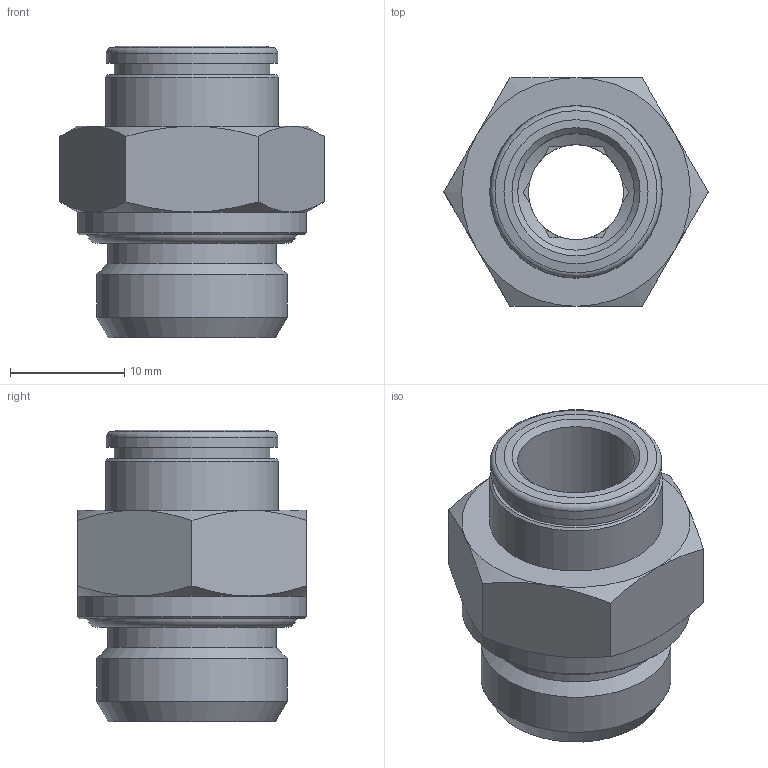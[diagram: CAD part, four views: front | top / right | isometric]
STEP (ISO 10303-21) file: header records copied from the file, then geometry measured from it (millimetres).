
FILE_DESCRIPTION(/* description */ (''),/* implementation_level */ '2;1');
FILE_NAME(/* name */ '200113ES_STX_01_10_38',/* time_stamp */ '2015-04-16T11:20:46+02:00',/* author */ (''),/* organization */ (''),/* preprocessor_version */ 'ST-DEVELOPER v14',/* originating_system */ 'HiCAD 2013 1802.3 Build 408',/* authorisation */ '');
FILE_SCHEMA (('AUTOMOTIVE_DESIGN { 1 0 10303 214 1 1 1 1 }'));
Length unit declared in the file: millimetre
Products named in the file (4): Root; OR 14X1.78; R200113-ES-i1; DR10-N
Assembly tree (3 placements, depth 2):
  Root
    OR 14X1.78
    R200113-ES-i1
    DR10-N
Bounding box: 23.09 x 20 x 25.5 mm (x, y, z)
Volume: 4031.8 mm3; surface area: 3855.1 mm2
Topology: 3 solids, 3 shells, 74 faces, 170 edges, 105 vertices
Faces by surface type: plane 33, cone 25, cylinder 12, torus 4
Full cylindrical faces by diameter (mm): 8.3 x1, 10.2 x2, 12.3 x1, 13 x1, 13.6 x1, 13.7 x1, 14.75 x1, 15 x1, 15.1 x1, 16.662 x1, 20 x1
Entity records: 3275 total; most frequent: DIRECTION 386, CARTESIAN_POINT 306, PRESENTATION_STYLE_ASSIGNMENT 265, COLOUR_RGB 264, DRAUGHTING_PRE_DEFINED_CURVE_FONT 262, CURVE_STYLE 262, OVER_RIDING_STYLED_ITEM 262, ORIENTED_EDGE 262
